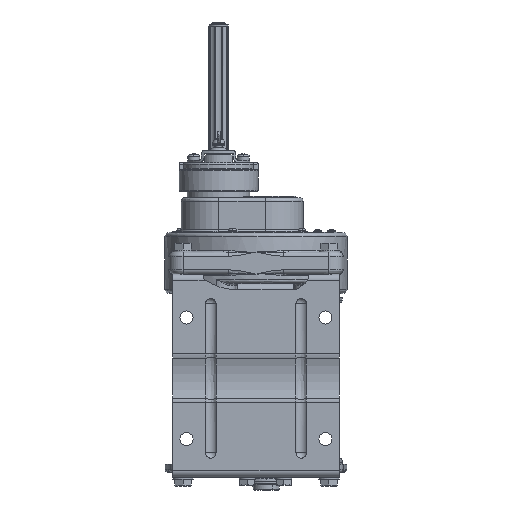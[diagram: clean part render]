
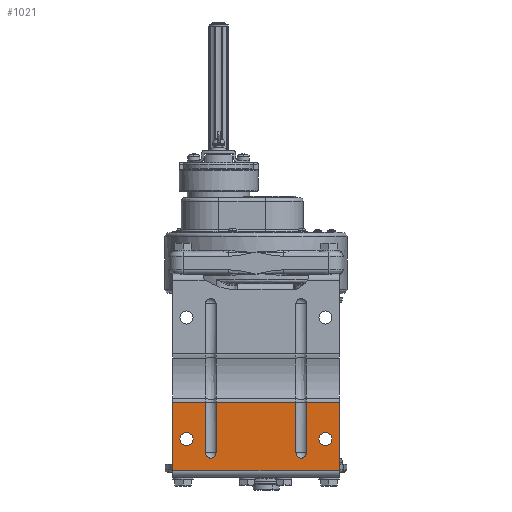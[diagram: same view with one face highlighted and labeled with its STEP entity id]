
A CAD part, front view. The second image highlights one B-rep face of the part: STEP entity #1021.
In plain terms, the highlighted planar face has unit normal (0, -1, 0).
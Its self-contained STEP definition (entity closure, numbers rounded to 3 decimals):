
#1021=ADVANCED_FACE('',(#12251,#12252,#12253),#12250,.T.);
#12250=PLANE('',#42476);
#12251=FACE_OUTER_BOUND('',#42477,.T.);
#12252=FACE_BOUND('',#42478,.T.);
#12253=FACE_BOUND('',#42479,.T.);
#42473=CARTESIAN_POINT('',(11.,-36.383,-259.95));
#42474=DIRECTION('',(0.,-1.,0.));
#42475=DIRECTION('',(0.,0.,1.));
#42476=AXIS2_PLACEMENT_3D('',#42473,#42474,#42475);
#42477=EDGE_LOOP('',(#60382,#60383,#60384,#60385,#60386,#60387,#60388,#60389,#60390,#60391,#60392,#60393));
#42478=EDGE_LOOP('',(#60394,#60395));
#42479=EDGE_LOOP('',(#60396,#60397));
#60382=ORIENTED_EDGE('',*,*,#73576,.F.);
#60383=ORIENTED_EDGE('',*,*,#73572,.F.);
#60384=ORIENTED_EDGE('',*,*,#73577,.T.);
#60385=ORIENTED_EDGE('',*,*,#73578,.T.);
#60386=ORIENTED_EDGE('',*,*,#73517,.F.);
#60387=ORIENTED_EDGE('',*,*,#73514,.T.);
#60388=ORIENTED_EDGE('',*,*,#73516,.T.);
#60389=ORIENTED_EDGE('',*,*,#73579,.T.);
#60390=ORIENTED_EDGE('',*,*,#73521,.F.);
#60391=ORIENTED_EDGE('',*,*,#73522,.F.);
#60392=ORIENTED_EDGE('',*,*,#73518,.T.);
#60393=ORIENTED_EDGE('',*,*,#73348,.T.);
#60394=ORIENTED_EDGE('',*,*,#73580,.F.);
#60395=ORIENTED_EDGE('',*,*,#73581,.F.);
#60396=ORIENTED_EDGE('',*,*,#73582,.F.);
#60397=ORIENTED_EDGE('',*,*,#73583,.F.);
#73348=EDGE_CURVE('',#95126,#95226,#95233,.T.);
#73514=EDGE_CURVE('',#96336,#96328,#96337,.T.);
#73516=EDGE_CURVE('',#96328,#95106,#96349,.T.);
#73517=EDGE_CURVE('',#96336,#95105,#96355,.T.);
#73518=EDGE_CURVE('',#96361,#95126,#96362,.T.);
#73521=EDGE_CURVE('',#96375,#95125,#96382,.T.);
#73522=EDGE_CURVE('',#96361,#96375,#96388,.T.);
#73572=EDGE_CURVE('',#96722,#96723,#96724,.T.);
#73576=EDGE_CURVE('',#96723,#95226,#96750,.T.);
#73577=EDGE_CURVE('',#96722,#96756,#96757,.T.);
#73578=EDGE_CURVE('',#96756,#95105,#96763,.T.);
#73579=EDGE_CURVE('',#95106,#95125,#96769,.T.);
#73580=EDGE_CURVE('',#96775,#96776,#96777,.T.);
#73581=EDGE_CURVE('',#96776,#96775,#96783,.T.);
#73582=EDGE_CURVE('',#96789,#96790,#96791,.T.);
#73583=EDGE_CURVE('',#96790,#96789,#96797,.T.);
#95105=VERTEX_POINT('',#140498);
#95106=VERTEX_POINT('',#140499);
#95125=VERTEX_POINT('',#140512);
#95126=VERTEX_POINT('',#140513);
#95226=VERTEX_POINT('',#140577);
#95233=LINE('',#140582,#140583);
#96328=VERTEX_POINT('',#141271);
#96336=VERTEX_POINT('',#141277);
#96337=CIRCLE('',#141281,6.);
#96349=LINE('',#141286,#141287);
#96355=LINE('',#141289,#141290);
#96361=VERTEX_POINT('',#141292);
#96362=LINE('',#141293,#141294);
#96375=VERTEX_POINT('',#141301);
#96382=LINE('',#141306,#141307);
#96388=CIRCLE('',#141312,6.);
#96722=VERTEX_POINT('',#141526);
#96723=VERTEX_POINT('',#141527);
#96724=LINE('',#141528,#141529);
#96750=LINE('',#141544,#141545);
#96756=VERTEX_POINT('',#141547);
#96757=LINE('',#141548,#141549);
#96763=LINE('',#141551,#141552);
#96769=LINE('',#141554,#141555);
#96775=VERTEX_POINT('',#141557);
#96776=VERTEX_POINT('',#141558);
#96777=CIRCLE('',#141562,7.5);
#96783=CIRCLE('',#141566,7.5);
#96789=VERTEX_POINT('',#141567);
#96790=VERTEX_POINT('',#141568);
#96791=CIRCLE('',#141572,7.5);
#96797=CIRCLE('',#141576,7.5);
#140498=CARTESIAN_POINT('',(-37.,-36.383,-173.596));
#140499=CARTESIAN_POINT('',(-49.,-36.383,-173.596));
#140512=CARTESIAN_POINT('',(-141.,-36.383,-173.596));
#140513=CARTESIAN_POINT('',(-153.,-36.383,-173.596));
#140577=CARTESIAN_POINT('',(-191.,-36.383,-173.596));
#140582=CARTESIAN_POINT('',(-153.,-36.383,-173.596));
#140583=VECTOR('',#140584,38.);
#140584=DIRECTION('',(-1.,0.,0.));
#141271=CARTESIAN_POINT('',(-49.,-36.383,-231.302));
#141277=CARTESIAN_POINT('',(-37.,-36.383,-231.302));
#141278=CARTESIAN_POINT('',(-43.,-36.383,-231.302));
#141279=DIRECTION('',(0.,1.,0.));
#141280=DIRECTION('',(1.,0.,0.));
#141281=AXIS2_PLACEMENT_3D('',#141278,#141279,#141280);
#141286=CARTESIAN_POINT('',(-49.,-36.383,-231.302));
#141287=VECTOR('',#141288,57.706);
#141288=DIRECTION('',(0.,0.,1.));
#141289=CARTESIAN_POINT('',(-37.,-36.383,-231.302));
#141290=VECTOR('',#141291,57.706);
#141291=DIRECTION('',(0.,0.,1.));
#141292=CARTESIAN_POINT('',(-153.,-36.383,-231.302));
#141293=CARTESIAN_POINT('',(-153.,-36.383,-231.302));
#141294=VECTOR('',#141295,57.706);
#141295=DIRECTION('',(0.,0.,1.));
#141301=CARTESIAN_POINT('',(-141.,-36.383,-231.302));
#141306=CARTESIAN_POINT('',(-141.,-36.383,-231.302));
#141307=VECTOR('',#141308,57.706);
#141308=DIRECTION('',(0.,0.,1.));
#141309=CARTESIAN_POINT('',(-147.,-36.383,-231.302));
#141310=DIRECTION('',(0.,-1.,0.));
#141311=DIRECTION('',(1.,0.,0.));
#141312=AXIS2_PLACEMENT_3D('',#141309,#141310,#141311);
#141526=CARTESIAN_POINT('',(1.,-36.383,-252.1));
#141527=CARTESIAN_POINT('',(-191.,-36.383,-252.1));
#141528=CARTESIAN_POINT('',(1.,-36.383,-252.1));
#141529=VECTOR('',#141530,192.);
#141530=DIRECTION('',(-1.,0.,0.));
#141544=CARTESIAN_POINT('',(-191.,-36.383,-252.1));
#141545=VECTOR('',#141546,78.504);
#141546=DIRECTION('',(0.,0.,1.));
#141547=CARTESIAN_POINT('',(1.,-36.383,-173.596));
#141548=CARTESIAN_POINT('',(1.,-36.383,-252.1));
#141549=VECTOR('',#141550,78.504);
#141550=DIRECTION('',(0.,0.,1.));
#141551=CARTESIAN_POINT('',(1.,-36.383,-173.596));
#141552=VECTOR('',#141553,38.);
#141553=DIRECTION('',(-1.,0.,0.));
#141554=CARTESIAN_POINT('',(-49.,-36.383,-173.596));
#141555=VECTOR('',#141556,92.);
#141556=DIRECTION('',(-1.,0.,0.));
#141557=CARTESIAN_POINT('',(-15.,-36.383,-222.9));
#141558=CARTESIAN_POINT('',(-15.,-36.383,-207.9));
#141559=CARTESIAN_POINT('',(-15.,-36.383,-215.4));
#141560=DIRECTION('',(0.,-1.,0.));
#141561=DIRECTION('',(0.,0.,1.));
#141562=AXIS2_PLACEMENT_3D('',#141559,#141560,#141561);
#141563=CARTESIAN_POINT('',(-15.,-36.383,-215.4));
#141564=DIRECTION('',(0.,-1.,0.));
#141565=DIRECTION('',(0.,0.,1.));
#141566=AXIS2_PLACEMENT_3D('',#141563,#141564,#141565);
#141567=CARTESIAN_POINT('',(-175.,-36.383,-222.9));
#141568=CARTESIAN_POINT('',(-175.,-36.383,-207.9));
#141569=CARTESIAN_POINT('',(-175.,-36.383,-215.4));
#141570=DIRECTION('',(0.,-1.,0.));
#141571=DIRECTION('',(0.,0.,1.));
#141572=AXIS2_PLACEMENT_3D('',#141569,#141570,#141571);
#141573=CARTESIAN_POINT('',(-175.,-36.383,-215.4));
#141574=DIRECTION('',(0.,-1.,0.));
#141575=DIRECTION('',(0.,0.,1.));
#141576=AXIS2_PLACEMENT_3D('',#141573,#141574,#141575);
